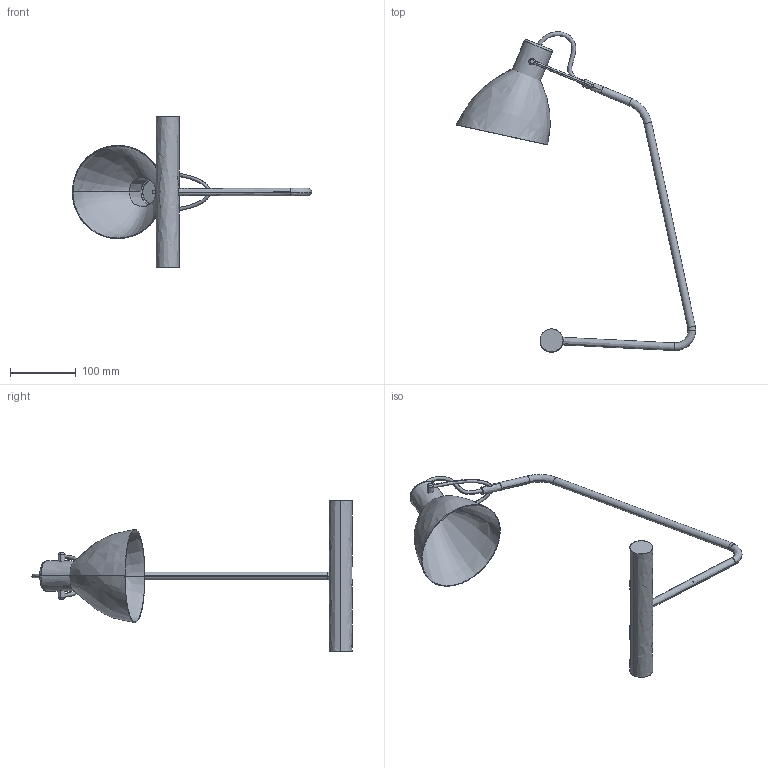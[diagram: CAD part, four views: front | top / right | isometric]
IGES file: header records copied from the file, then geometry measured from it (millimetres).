
Start section: SolidWorks IGES file using analytic representation for surfaces
Global section: file name: C:\Users\Agus\Desktop\incorporar\1270\s1270\S1270.IGS; native system: SolidWorks 2018; preprocessor: SolidWorks 2018; author: Agus; date: 191122.180003; units: millimetre
Bounding box: 364 x 486.99 x 230 mm (x, y, z)
Surface area: 146532.2 mm2 (no closed solid volume)
Topology: 0 solids, 0 shells, 55 faces, 1215 edges, 1215 vertices
Faces by surface type: bspline 41, revolution 14
